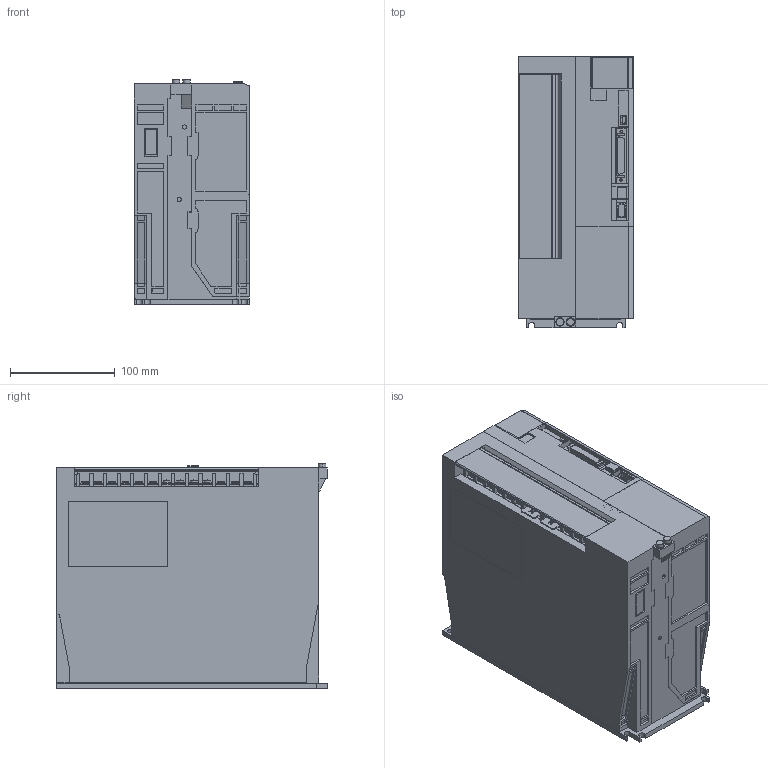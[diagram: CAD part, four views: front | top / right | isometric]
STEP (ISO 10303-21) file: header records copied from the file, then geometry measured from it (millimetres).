
FILE_DESCRIPTION((''),'2;1');
FILE_NAME('SGDXS-330A00A_ASM','2022-03-16T',('user237'),('Yaskawa Electric (Shenyang) Co.,Ltd'),'PRO/ENGINEER BY PARAMETRIC TECHNOLOGY CORPORATION, 2017170','PRO/ENGINEER BY PARAMETRIC TECHNOLOGY CORPORATION, 2017170','');
FILE_SCHEMA(('AUTOMOTIVE_DESIGN { 1 0 10303 214 1 1 1 1 }'));
Products named in the file (7): SGDXS-330A00A_BASE; SGMXS-330A00A_CONNECTOR1; SGMXS-330A00A_COVER1; SGMXS-330A00A_COVER2; SGMXS-330A00A_COVER3; SGMXS-330A00A_COVER4_AF0; SGDXS-330A00A_ASM
Assembly tree (6 placements, depth 2):
  SGDXS-330A00A_ASM
    SGDXS-330A00A_BASE
    SGMXS-330A00A_CONNECTOR1
    SGMXS-330A00A_COVER1
    SGMXS-330A00A_COVER2
    SGMXS-330A00A_COVER3
    SGMXS-330A00A_COVER4_AF0
Bounding box: 110.51 x 258.01 x 214.1 mm (x, y, z)
Volume: 5511642.4 mm3; surface area: 283580.6 mm2
Topology: 6 solids, 6 shells, 2383 faces, 6353 edges, 4111 vertices
Faces by surface type: plane 1889, cylinder 364, torus 48, sphere 42, cone 35, bspline 5
Entity records: 91224 total; most frequent: CARTESIAN_POINT 14039, ORIENTED_EDGE 12642, DIRECTION 11874, EDGE_CURVE 6321, VECTOR 5324, LINE 5324, VERTEX_POINT 4111, AXIS2_PLACEMENT_3D 3275
